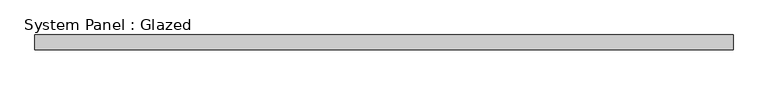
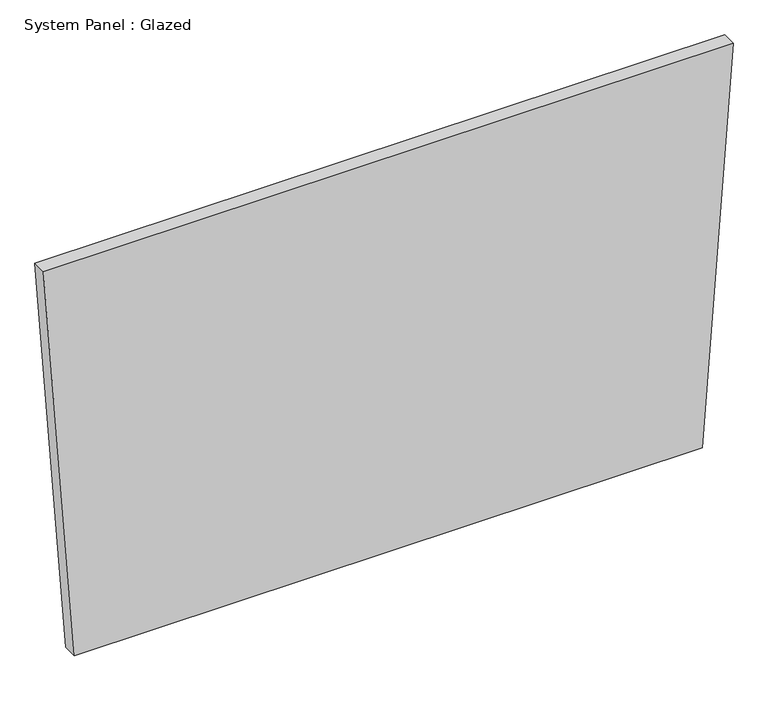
"""IFC4 building model written with IfcOpenShell, lengths in millimetres: plate geometry, System Panel : Glazed."""

from ifc_helpers import new_model, si_unit, frame, origin, place, context, project, spatial, polyline, outline, extrude, source, transform, mapped, element, save


def system_panel_glazed_78d38e67(model_context):
    return source(origin(), model_context, "Body", "SweptSolid", [
        extrude(outline(polyline([(0.0, -544.3192654), (0.0, 544.3182827), (722.9001473, 598.1643749), (722.8869548, -598.1643749), (0.0, -544.3192654)])), frame((0.0, 19.05, 0.0), z_axis=(0.0, 1.0, 0.0), x_axis=(0.0, 0.0, 1.0)), (0.0, 0.0, 1.0), 25.4),
    ])


if __name__ == "__main__":
    model = new_model("IFC4")
    model_context = context("Model", 3, world=origin())
    ifc_project = project(units=[si_unit("LENGTHUNIT", "METRE", prefix="MILLI")], contexts=[model_context])
    site = spatial("IfcSite", under=ifc_project)
    building = spatial("IfcBuilding", under=site)
    placement = place(None, origin())
    system_panel_glazed_shape = system_panel_glazed_78d38e67(model_context)
    element("IfcPlate", 1, ObjectType="System Panel : Glazed", at=placement, inside=building, context=model_context, shape_type="MappedRepresentation", body=[
        mapped(system_panel_glazed_shape, transform((0.0, 0.0, 0.0), x_axis=(1.0, 0.0, 0.0), y_axis=(0.0, 1.0, 0.0), z_axis=(0.0, 0.0, 1.0))),
    ])
    save(model, "model.ifc")
